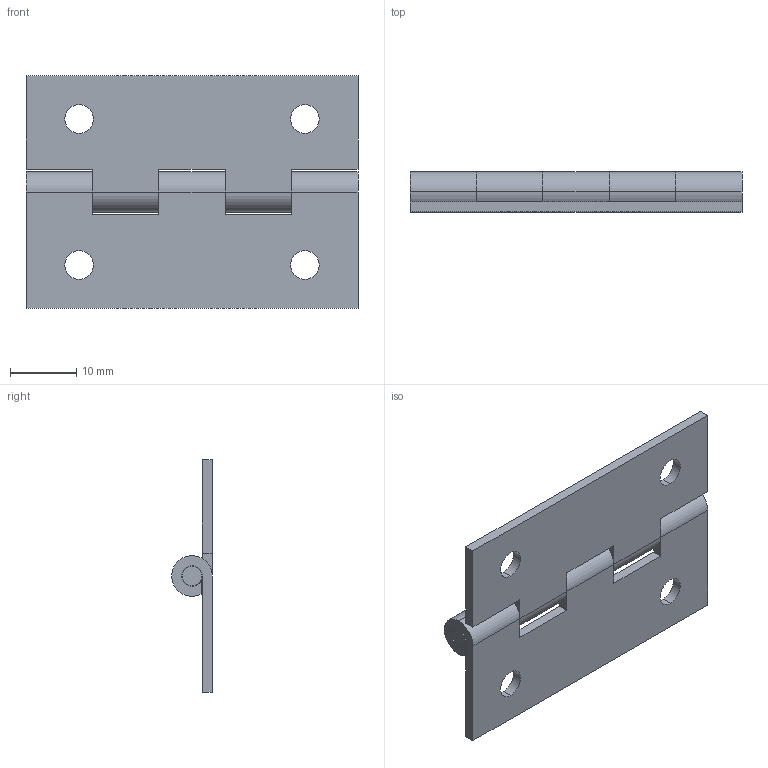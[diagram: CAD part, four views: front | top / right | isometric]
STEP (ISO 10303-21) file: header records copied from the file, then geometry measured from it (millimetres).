
FILE_DESCRIPTION (( 'STEP AP203' ), '1' );
FILE_NAME ('B18-18782.STEP', '2024-10-24T09:21:04', ( '' ), ( '' ), 'SwSTEP 2.0', 'SolidWorks 2021', '' );
FILE_SCHEMA (( 'CONFIG_CONTROL_DESIGN' ));
Length unit declared in the file: millimetre
Products named in the file (4): B18-107812-2; B18-18782; B18-107812-1; B18-3-50
Assembly tree (3 placements, depth 2):
  B18-18782
    B18-3-50
    B18-107812-1
    B18-107812-2
Bounding box: 50 x 6.1 x 35 mm (x, y, z)
Volume: 3563.2 mm3; surface area: 5513.3 mm2
Topology: 3 solids, 3 shells, 70 faces, 192 edges, 128 vertices
Faces by surface type: cylinder 40, plane 30
Entity records: 2686 total; most frequent: DIRECTION 424, CARTESIAN_POINT 396, ORIENTED_EDGE 384, EDGE_CURVE 192, AXIS2_PLACEMENT_3D 156, VERTEX_POINT 128, LINE 112, VECTOR 112
